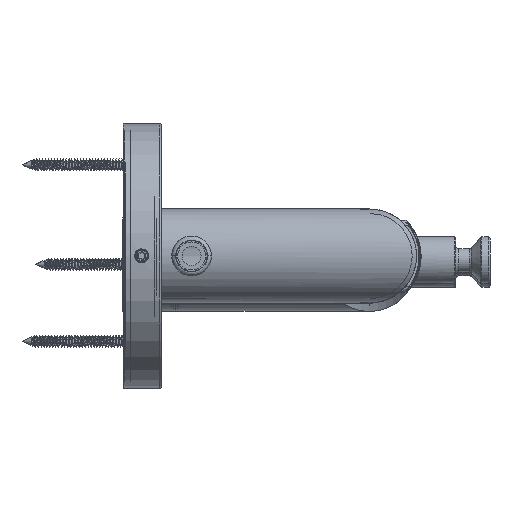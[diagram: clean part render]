
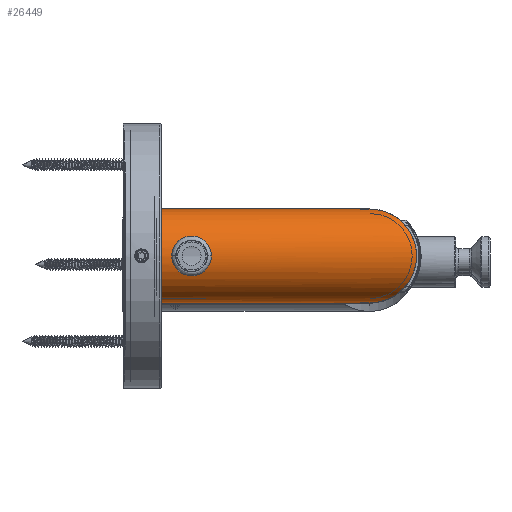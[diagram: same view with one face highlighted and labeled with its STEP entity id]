
A CAD part, top view. The second image highlights one B-rep face of the part: STEP entity #26449.
In plain terms, the highlighted cylindrical face has radius 16 mm (diameter 32 mm), a partial arc.
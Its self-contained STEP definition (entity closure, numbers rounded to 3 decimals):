
#26189=CARTESIAN_POINT('',(0.,0.,-88.5));
#26190=DIRECTION('',(0.,0.,-1.));
#26191=DIRECTION('',(-1.,0.,0.));
#26192=AXIS2_PLACEMENT_3D('',#26189,#26190,#26191);
#26209=DIRECTION('',(0.,0.,1.));
#26210=VECTOR('',#26209,72.5);
#26211=CARTESIAN_POINT('',(16.,0.,-88.5));
#26212=LINE('',#26211,#26210);
#26213=CARTESIAN_POINT('',(16.,0.,-16.));
#26214=CARTESIAN_POINT('',(16.,1.886,-14.114));
#26215=CARTESIAN_POINT('',(15.482,4.939,
-11.061));
#26216=CARTESIAN_POINT('',(13.493,8.808,
-7.192));
#26217=CARTESIAN_POINT('',(11.396,11.395,
-4.605));
#26218=CARTESIAN_POINT('',(8.807,13.493,
-2.507));
#26219=CARTESIAN_POINT('',(5.907,14.984,
-1.016));
#26220=CARTESIAN_POINT('',(3.402,15.691,
-0.309));
#26221=CARTESIAN_POINT('',(1.429,15.958,
-0.042));
#26222=CARTESIAN_POINT('',(0.,16.021,0.021));
#26223=CARTESIAN_POINT('',(-1.429,15.958,
-0.042));
#26224=CARTESIAN_POINT('',(-3.402,15.691,
-0.309));
#26225=CARTESIAN_POINT('',(-5.907,14.984,
-1.016));
#26226=CARTESIAN_POINT('',(-8.807,13.493,
-2.507));
#26227=CARTESIAN_POINT('',(-11.396,11.395,
-4.605));
#26228=CARTESIAN_POINT('',(-13.493,8.808,
-7.192));
#26229=CARTESIAN_POINT('',(-15.482,4.939,
-11.061));
#26230=CARTESIAN_POINT('',(-16.,1.886,-14.114));
#26231=CARTESIAN_POINT('',(-16.,0.,-16.));
#26233=CARTESIAN_POINT('',(0.,16.,-71.1));
#26234=CARTESIAN_POINT('',(-0.365,16.,-71.1));
#26235=CARTESIAN_POINT('',(-1.093,15.976,
-71.171));
#26236=CARTESIAN_POINT('',(-2.221,15.858,
-71.53));
#26237=CARTESIAN_POINT('',(-3.241,15.678,
-72.13));
#26238=CARTESIAN_POINT('',(-4.08,15.478,
-72.902));
#26239=CARTESIAN_POINT('',(-4.743,15.284,
-73.837));
#26240=CARTESIAN_POINT('',(-5.186,15.138,
-74.862));
#26241=CARTESIAN_POINT('',(-5.41,15.058,
-75.954));
#26242=CARTESIAN_POINT('',(-5.41,15.058,
-77.048));
#26243=CARTESIAN_POINT('',(-5.184,15.138,
-78.142));
#26244=CARTESIAN_POINT('',(-4.741,15.285,
-79.166));
#26245=CARTESIAN_POINT('',(-4.077,15.478,
-80.101));
#26246=CARTESIAN_POINT('',(-3.237,15.679,
-80.873));
#26247=CARTESIAN_POINT('',(-2.215,15.859,
-81.473));
#26248=CARTESIAN_POINT('',(-1.089,15.976,
-81.83));
#26249=CARTESIAN_POINT('',(-0.363,16.,-81.9));
#26250=CARTESIAN_POINT('',(0.,16.,-81.9));
#26252=CARTESIAN_POINT('',(0.,16.,-81.9));
#26253=CARTESIAN_POINT('',(0.365,16.,-81.9));
#26254=CARTESIAN_POINT('',(1.094,15.976,
-81.829));
#26255=CARTESIAN_POINT('',(2.222,15.858,
-81.47));
#26256=CARTESIAN_POINT('',(3.241,15.678,
-80.87));
#26257=CARTESIAN_POINT('',(4.08,15.478,
-80.098));
#26258=CARTESIAN_POINT('',(4.743,15.284,
-79.162));
#26259=CARTESIAN_POINT('',(5.186,15.138,
-78.137));
#26260=CARTESIAN_POINT('',(5.41,15.058,
-77.046));
#26261=CARTESIAN_POINT('',(5.41,15.058,
-75.952));
#26262=CARTESIAN_POINT('',(5.185,15.138,
-74.859));
#26263=CARTESIAN_POINT('',(4.741,15.285,
-73.834));
#26264=CARTESIAN_POINT('',(4.077,15.478,
-72.899));
#26265=CARTESIAN_POINT('',(3.238,15.679,
-72.127));
#26266=CARTESIAN_POINT('',(2.216,15.859,
-71.527));
#26267=CARTESIAN_POINT('',(1.09,15.976,
-71.171));
#26268=CARTESIAN_POINT('',(0.364,16.,-71.1));
#26269=CARTESIAN_POINT('',(0.,16.,-71.1));
#26271=DIRECTION('',(0.,0.,1.));
#26272=VECTOR('',#26271,72.5);
#26273=CARTESIAN_POINT('',(-16.,0.,-88.5));
#26274=LINE('',#26273,#26272);
#26391=CARTESIAN_POINT('',(-16.,0.,-88.5));
#26392=CARTESIAN_POINT('',(16.,0.,-88.5));
#26393=VERTEX_POINT('',#26391);
#26394=VERTEX_POINT('',#26392);
#26399=CARTESIAN_POINT('',(16.,0.,-16.));
#26400=VERTEX_POINT('',#26399);
#26401=CARTESIAN_POINT('',(-16.,0.,-16.));
#26402=VERTEX_POINT('',#26401);
#26407=VERTEX_POINT('',#26233);
#26408=VERTEX_POINT('',#26250);
#26429=CARTESIAN_POINT('',(0.,0.,0.));
#26430=DIRECTION('',(0.,0.,1.));
#26431=DIRECTION('',(1.,0.,0.));
#26432=AXIS2_PLACEMENT_3D('',#26429,#26430,#26431);
#26433=CYLINDRICAL_SURFACE('',#26432,16.);
#26435=ORIENTED_EDGE('',*,*,#26434,.T.);
#26437=ORIENTED_EDGE('',*,*,#26436,.T.);
#26439=ORIENTED_EDGE('',*,*,#26438,.F.);
#26440=ORIENTED_EDGE('',*,*,#26416,.T.);
#26441=EDGE_LOOP('',(#26435,#26437,#26439,#26440));
#26442=FACE_OUTER_BOUND('',#26441,.F.);
#26444=ORIENTED_EDGE('',*,*,#26443,.F.);
#26446=ORIENTED_EDGE('',*,*,#26445,.F.);
#26447=EDGE_LOOP('',(#26444,#26446));
#26448=FACE_BOUND('',#26447,.F.);
#26449=ADVANCED_FACE('',(#26442,#26448),#26433,.T.);
#26193=CIRCLE('',#26192,16.);
#26232=B_SPLINE_CURVE_WITH_KNOTS('',3,(#26213,#26214,#26215,#26216,#26217,
#26218,#26219,#26220,#26221,#26222,#26223,#26224,#26225,#26226,#26227,#26228,
#26229,#26230,#26231),.UNSPECIFIED.,.F.,.F.,(4,1,1,1,1,1,1,1,1,1,1,1,1,1,1,1,4),
(0.,0.125,0.188,0.25,0.313,0.375,0.438,0.469,0.5,
0.531,0.563,0.625,0.688,0.75,0.813,0.875,1.),
.UNSPECIFIED.);
#26251=B_SPLINE_CURVE_WITH_KNOTS('',3,(#26233,#26234,#26235,#26236,#26237,
#26238,#26239,#26240,#26241,#26242,#26243,#26244,#26245,#26246,#26247,#26248,
#26249,#26250),.UNSPECIFIED.,.F.,.F.,(4,1,1,1,1,1,1,1,1,1,1,1,1,1,1,4),(0.,
0.067,0.133,0.2,0.267,0.333,
0.4,0.467,0.533,0.6,0.667,
0.733,0.8,0.867,0.933,1.),
.UNSPECIFIED.);
#26270=B_SPLINE_CURVE_WITH_KNOTS('',3,(#26252,#26253,#26254,#26255,#26256,
#26257,#26258,#26259,#26260,#26261,#26262,#26263,#26264,#26265,#26266,#26267,
#26268,#26269),.UNSPECIFIED.,.F.,.F.,(4,1,1,1,1,1,1,1,1,1,1,1,1,1,1,4),(0.,
0.067,0.133,0.2,0.267,0.333,
0.4,0.467,0.533,0.6,0.667,
0.733,0.8,0.867,0.933,1.),
.UNSPECIFIED.);
#26416=EDGE_CURVE('',#26393,#26394,#26193,.T.);
#26434=EDGE_CURVE('',#26394,#26400,#26212,.T.);
#26436=EDGE_CURVE('',#26400,#26402,#26232,.T.);
#26438=EDGE_CURVE('',#26393,#26402,#26274,.T.);
#26443=EDGE_CURVE('',#26407,#26408,#26251,.T.);
#26445=EDGE_CURVE('',#26408,#26407,#26270,.T.);
